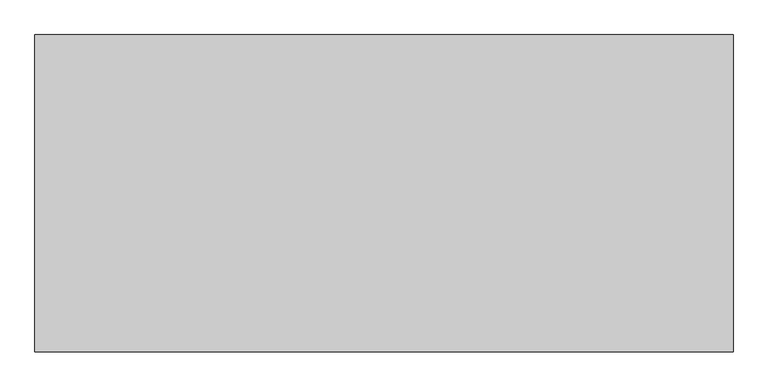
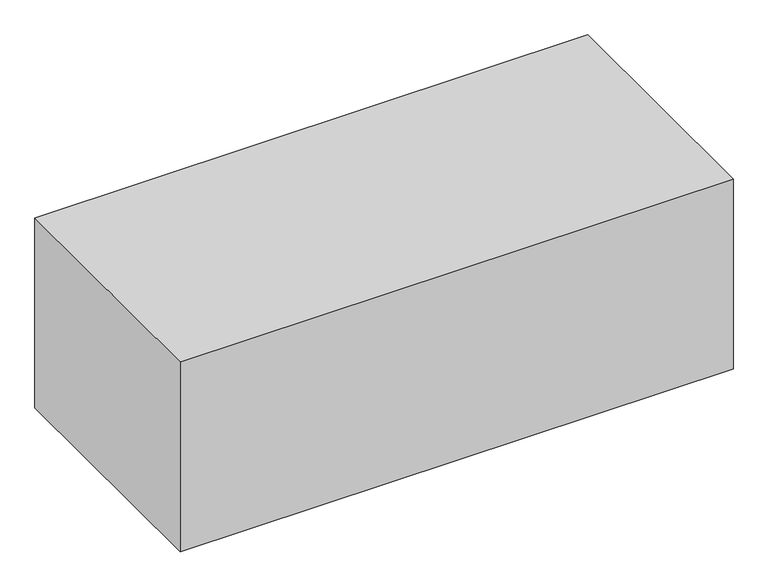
"""IFC4 building model written with IfcOpenShell, lengths in millimetres: geographic element geometry, r 低木密植 : 低木密植."""

from ifc_helpers import new_model, si_unit, origin, origin_with_axes, place, context, project, spatial, polyline, outline, extrude, source, transform, mapped, element, save


def geographic_element_fa39f05c(model_context):
    return source(origin(), model_context, "Body", "SweptSolid", [
        extrude(outline(polyline([(0.0, 0.0), (0.0, 500.0), (1100.0, 500.0), (1100.0, 0.0), (0.0, 0.0)])), origin_with_axes(), (0.0, 0.0, 1.0), 400.0),
    ])


if __name__ == "__main__":
    model = new_model("IFC4")
    model_context = context("Model", 3, world=origin())
    ifc_project = project(units=[si_unit("LENGTHUNIT", "METRE", prefix="MILLI")], contexts=[model_context])
    site = spatial("IfcSite", under=ifc_project)
    building = spatial("IfcBuilding", under=site)
    placement = place(None, origin())
    geographic_element_shape = geographic_element_fa39f05c(model_context)
    element("IfcGeographicElement", 1, ObjectType="r 低木密植 : 低木密植", at=placement, inside=building, context=model_context, shape_type="MappedRepresentation", body=[
        mapped(geographic_element_shape, transform((0.0, 0.0, 0.0), x_axis=(1.0, 0.0, 0.0), y_axis=(0.0, 1.0, 0.0), z_axis=(0.0, 0.0, 1.0))),
    ])
    save(model, "model.ifc")
